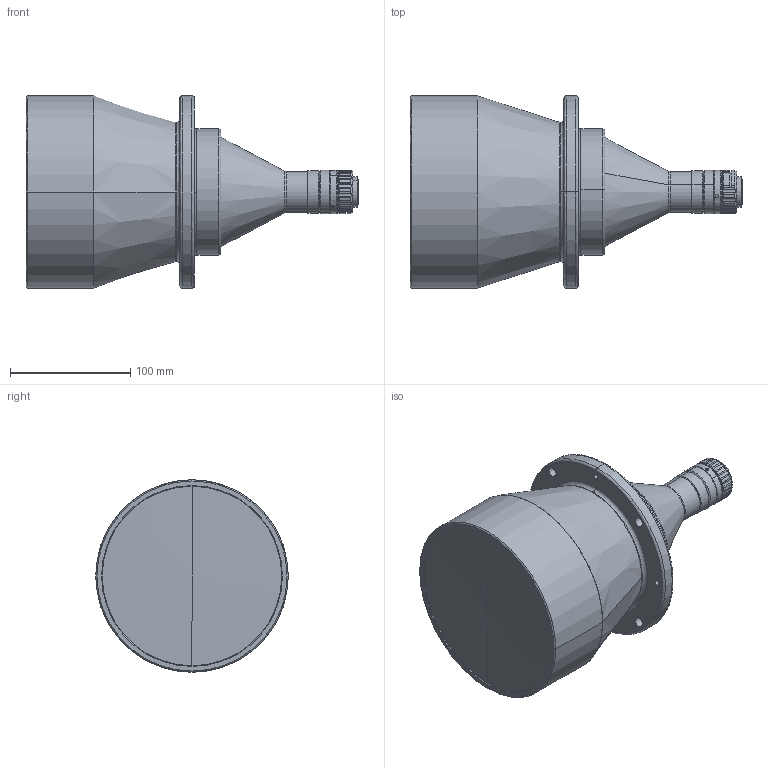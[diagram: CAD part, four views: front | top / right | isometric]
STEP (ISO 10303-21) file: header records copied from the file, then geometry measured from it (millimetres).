
FILE_DESCRIPTION (( 'STEP AP203' ), '1' );
FILE_NAME ('DTCM118-120H-AL.STEP', '2019-12-30T07:42:42', ( '' ), ( '' ), 'SwSTEP 2.0', 'SolidWorks 2017', '' );
FILE_SCHEMA (( 'CONFIG_CONTROL_DESIGN' ));
Length unit declared in the file: millimetre
Products named in the file (1): DTCM118-120H-AL
Bounding box: 276.01 x 160 x 160 mm (x, y, z)
Volume: 2842754.6 mm3; surface area: 137123.8 mm2
Topology: 1 solids, 2 shells, 171 faces, 434 edges, 274 vertices
Faces by surface type: cylinder 91, cone 44, plane 22, bspline 14
Entity records: 6369 total; most frequent: CARTESIAN_POINT 2255, ORIENTED_EDGE 856, DIRECTION 840, EDGE_CURVE 428, AXIS2_PLACEMENT_3D 347, VERTEX_POINT 274, EDGE_LOOP 202, CIRCLE 189
